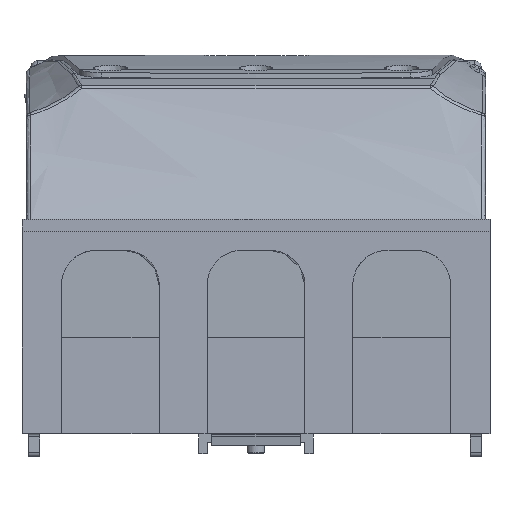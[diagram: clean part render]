
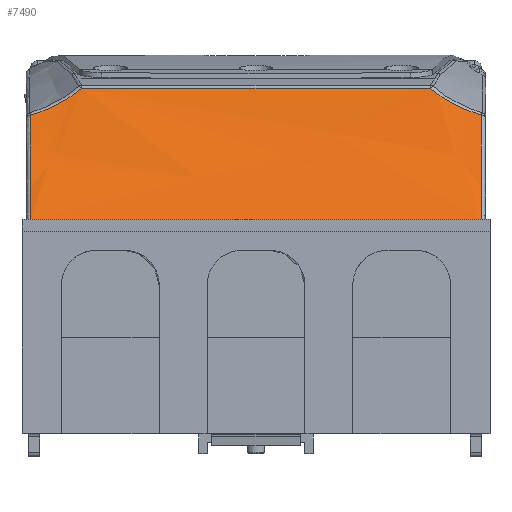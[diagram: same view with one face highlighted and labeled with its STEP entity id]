
A CAD part, left-side view. The second image highlights one B-rep face of the part: STEP entity #7490.
In plain terms, the highlighted face is a extrusion surface.
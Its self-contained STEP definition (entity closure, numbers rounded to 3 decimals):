
#4414=SURFACE_OF_LINEAR_EXTRUSION('',#5428,#30821);
#4646=(
BOUNDED_CURVE()
B_SPLINE_CURVE(3,(#46026,#46027,#46028,#46029),.UNSPECIFIED.,.F.,.F.)
B_SPLINE_CURVE_WITH_KNOTS((4,4),(0.,1.),.UNSPECIFIED.)
CURVE()
GEOMETRIC_REPRESENTATION_ITEM()
RATIONAL_B_SPLINE_CURVE((1.,0.943,0.943,1.))
REPRESENTATION_ITEM('')
);
#4663=(
BOUNDED_CURVE()
B_SPLINE_CURVE(3,(#56104,#56105,#56106,#56107),.UNSPECIFIED.,.F.,.F.)
B_SPLINE_CURVE_WITH_KNOTS((4,4),(0.,1.),.UNSPECIFIED.)
CURVE()
GEOMETRIC_REPRESENTATION_ITEM()
RATIONAL_B_SPLINE_CURVE((1.,0.943,0.943,1.))
REPRESENTATION_ITEM('')
);
#5428=ELLIPSE('',#33167,35.,12.5);
#7490=ADVANCED_FACE('',(#9895),#4414,.F.);
#9895=FACE_OUTER_BOUND('',#11453,.T.);
#11453=EDGE_LOOP('',(#16465,#16466,#16467,#16468,#16469,#16470));
#12976=B_SPLINE_CURVE_WITH_KNOTS('',3,(#54316,#54317,#54318,#54319,#54320,
#54321,#54322,#54323,#54324,#54325,#54326,#54327,#54328,#54329,#54330,#54331),
 .UNSPECIFIED.,.F.,.F.,(4,2,2,2,2,2,2,4),(0.,0.125,0.188,
0.25,0.375,0.438,0.5,
1.),.UNSPECIFIED.);
#12995=B_SPLINE_CURVE_WITH_KNOTS('',3,(#54862,#54863,#54864,#54865,#54866,
#54867,#54868,#54869,#54870,#54871,#54872,#54873,#54874,#54875,#54876,#54877,
#54878),.UNSPECIFIED.,.F.,.F.,(4,2,2,2,2,1,2,2,4),(0.,0.25,
0.375,0.438,0.5,0.625,
0.688,0.75,1.),.UNSPECIFIED.);
#16465=ORIENTED_EDGE('',*,*,#26322,.T.);
#16466=ORIENTED_EDGE('',*,*,#26267,.T.);
#16467=ORIENTED_EDGE('',*,*,#26262,.T.);
#16468=ORIENTED_EDGE('',*,*,#25324,.T.);
#16469=ORIENTED_EDGE('',*,*,#25070,.F.);
#16470=ORIENTED_EDGE('',*,*,#26429,.T.);
#22303=VERTEX_POINT('',#45207);
#22304=VERTEX_POINT('',#45209);
#22515=VERTEX_POINT('',#46030);
#23124=VERTEX_POINT('',#54297);
#23127=VERTEX_POINT('',#54355);
#23155=VERTEX_POINT('',#54879);
#25070=EDGE_CURVE('',#22303,#22304,#28719,.T.);
#25324=EDGE_CURVE('',#22515,#22304,#4646,.T.);
#26262=EDGE_CURVE('',#23124,#22515,#12976,.T.);
#26267=EDGE_CURVE('',#23127,#23124,#29123,.T.);
#26322=EDGE_CURVE('',#23155,#23127,#12995,.T.);
#26429=EDGE_CURVE('',#22303,#23155,#4663,.T.);
#28719=LINE('',#45208,#30381);
#29123=LINE('',#54358,#30785);
#30381=VECTOR('',#35974,1.);
#30785=VECTOR('',#37762,1.);
#30821=VECTOR('',#38040,1.);
#33167=AXIS2_PLACEMENT_3D('',#56108,#38038,#38039);
#35974=DIRECTION('',(0.,1.,0.));
#37762=DIRECTION('',(0.,1.,0.));
#38038=DIRECTION('',(0.,-1.,0.));
#38039=DIRECTION('',(0.568,0.,0.823));
#38040=DIRECTION('',(0.,-1.,0.));
#45207=CARTESIAN_POINT('',(-175.043,33.,45.002));
#45208=CARTESIAN_POINT('',(-175.043,33.,45.002));
#45209=CARTESIAN_POINT('',(-175.043,135.,45.002));
#46026=CARTESIAN_POINT('',(-159.537,135.,68.653));
#46027=CARTESIAN_POINT('',(-163.206,135.,60.41));
#46028=CARTESIAN_POINT('',(-168.688,135.,52.049));
#46029=CARTESIAN_POINT('',(-175.043,135.,45.002));
#46030=CARTESIAN_POINT('',(-159.537,135.,68.653));
#54297=CARTESIAN_POINT('',(-157.184,123.476,74.757));
#54316=CARTESIAN_POINT('',(-157.184,123.476,74.757));
#54317=CARTESIAN_POINT('',(-157.294,123.859,74.417));
#54318=CARTESIAN_POINT('',(-157.405,124.269,74.081));
#54319=CARTESIAN_POINT('',(-157.575,124.923,73.587));
#54320=CARTESIAN_POINT('',(-157.632,125.148,73.424));
#54321=CARTESIAN_POINT('',(-157.746,125.61,73.1));
#54322=CARTESIAN_POINT('',(-157.812,125.881,72.918));
#54323=CARTESIAN_POINT('',(-157.962,126.514,72.506));
#54324=CARTESIAN_POINT('',(-158.064,126.962,72.233));
#54325=CARTESIAN_POINT('',(-158.22,127.672,71.825));
#54326=CARTESIAN_POINT('',(-158.272,127.915,71.689));
#54327=CARTESIAN_POINT('',(-158.377,128.414,71.419));
#54328=CARTESIAN_POINT('',(-158.436,128.695,71.271));
#54329=CARTESIAN_POINT('',(-158.87,130.822,70.179));
#54330=CARTESIAN_POINT('',(-159.23,132.845,69.342));
#54331=CARTESIAN_POINT('',(-159.537,135.,68.653));
#54355=CARTESIAN_POINT('',(-157.184,44.524,74.757));
#54358=CARTESIAN_POINT('',(-157.184,44.524,74.757));
#54862=CARTESIAN_POINT('',(-159.537,33.,68.653));
#54863=CARTESIAN_POINT('',(-159.383,34.083,68.999));
#54864=CARTESIAN_POINT('',(-159.215,35.132,69.382));
#54865=CARTESIAN_POINT('',(-158.949,36.655,70.01));
#54866=CARTESIAN_POINT('',(-158.858,37.155,70.229));
#54867=CARTESIAN_POINT('',(-158.718,37.891,70.569));
#54868=CARTESIAN_POINT('',(-158.671,38.135,70.685));
#54869=CARTESIAN_POINT('',(-158.575,38.617,70.921));
#54870=CARTESIAN_POINT('',(-158.532,38.831,71.027));
#54871=CARTESIAN_POINT('',(-158.371,39.619,71.433));
#54872=CARTESIAN_POINT('',(-158.213,40.367,71.839));
#54873=CARTESIAN_POINT('',(-158.059,41.056,72.248));
#54874=CARTESIAN_POINT('',(-157.958,41.502,72.52));
#54875=CARTESIAN_POINT('',(-157.915,41.687,72.636));
#54876=CARTESIAN_POINT('',(-157.629,42.894,73.422));
#54877=CARTESIAN_POINT('',(-157.402,43.759,74.078));
#54878=CARTESIAN_POINT('',(-157.184,44.524,74.757));
#54879=CARTESIAN_POINT('',(-159.537,33.,68.653));
#56104=CARTESIAN_POINT('',(-175.043,33.,45.002));
#56105=CARTESIAN_POINT('',(-168.688,33.,52.049));
#56106=CARTESIAN_POINT('',(-163.206,33.,60.41));
#56107=CARTESIAN_POINT('',(-159.537,33.,68.653));
#56108=CARTESIAN_POINT('',(-177.888,136.,61.55));
